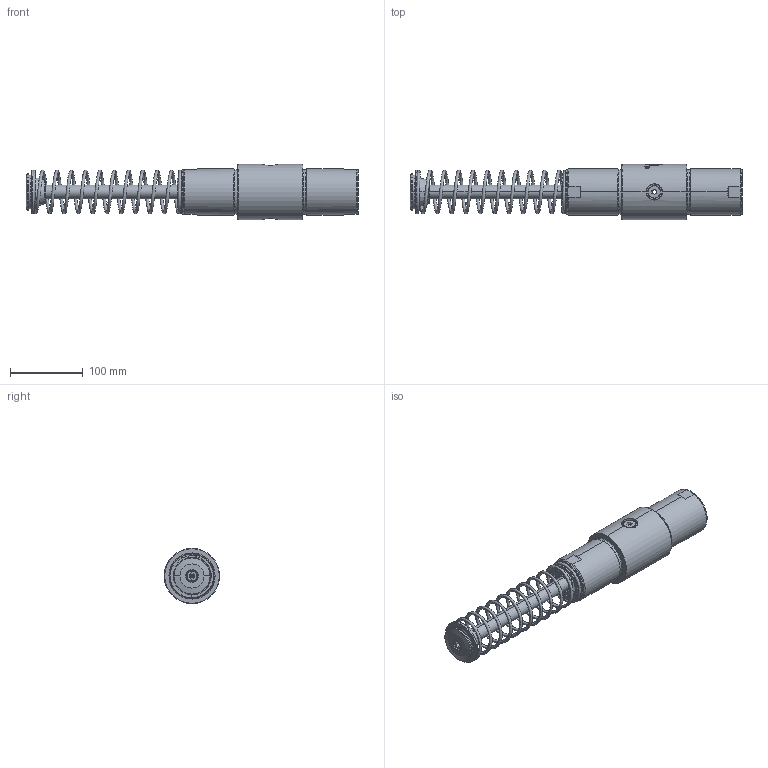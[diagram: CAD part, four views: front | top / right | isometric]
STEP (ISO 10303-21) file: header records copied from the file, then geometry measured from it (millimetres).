
FILE_DESCRIPTION (( 'STEP AP214' ), '1' );
FILE_NAME ('OEMXT 2.0M X 6.STEP', '2010-06-11T13:23:05', ( ' ' ), ( '' ), 'SwSTEP 2.0', 'SolidWorks 2006233', '' );
FILE_SCHEMA (( 'AUTOMOTIVE_DESIGN' ));
Length unit declared in the file: inch
Products named in the file (1): OEMXT 2.0M X 6
Bounding box: 456.51 x 76.07 x 76.07 mm (x, y, z)
Surface area: 117641.5 mm2 (no closed solid volume)
Topology: 0 solids, 29 shells, 224 faces, 832 edges, 637 vertices
Faces by surface type: plane 86, cylinder 63, cone 46, torus 19, bspline 10
Entity records: 19621 total; most frequent: CARTESIAN_POINT 9992, DIRECTION 1306, ORIENTED_EDGE 1250, EDGE_CURVE 832, VERTEX_POINT 637, AXIS2_PLACEMENT_3D 466, VECTOR 374, LINE 374
